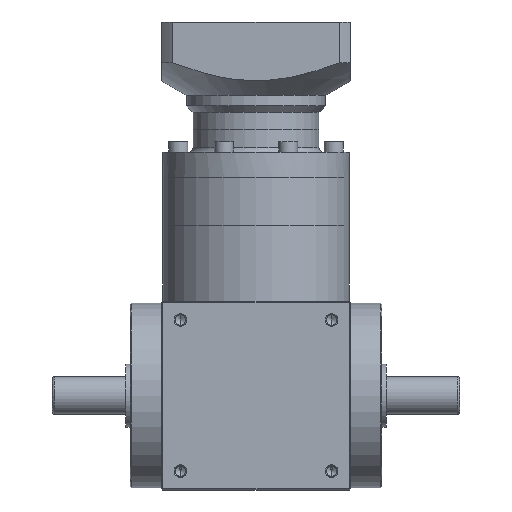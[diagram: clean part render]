
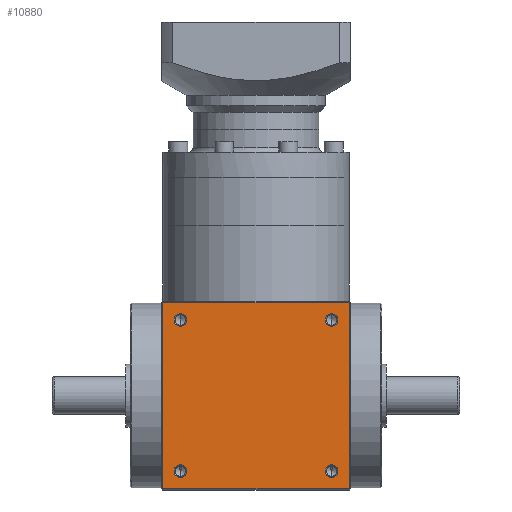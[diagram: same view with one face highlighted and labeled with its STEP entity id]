
A CAD part, front view. The second image highlights one B-rep face of the part: STEP entity #10880.
In plain terms, the highlighted planar face has unit normal (0, -1, 0).
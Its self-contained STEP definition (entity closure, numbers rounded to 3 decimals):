
#320 = VERTEX_POINT ( 'NONE', #10283 ) ;
#443 = ORIENTED_EDGE ( 'NONE', *, *, #26386, .F. ) ;
#527 = CIRCLE ( 'NONE', #22986, 3.025 ) ;
#1310 = VERTEX_POINT ( 'NONE', #34458 ) ;
#1493 = AXIS2_PLACEMENT_3D ( 'NONE', #32170, #6461, #36459 ) ;
#1652 = AXIS2_PLACEMENT_3D ( 'NONE', #54366, #28804, #3116 ) ;
#2283 = DIRECTION ( 'NONE',  ( 1., 0., 0. ) ) ;
#2590 = EDGE_CURVE ( 'NONE', #17199, #4421, #20170, .T. ) ;
#2798 = ORIENTED_EDGE ( 'NONE', *, *, #35758, .F. ) ;
#3100 = DIRECTION ( 'NONE',  ( 0., 1., 0. ) ) ;
#3116 = DIRECTION ( 'NONE',  ( 0., 0., -1. ) ) ;
#3380 = CARTESIAN_POINT ( 'NONE',  ( -36., -45., 81. ) ) ;
#4421 = VERTEX_POINT ( 'NONE', #7647 ) ;
#5042 = EDGE_CURVE ( 'NONE', #1310, #31930, #21303, .T. ) ;
#5587 = ORIENTED_EDGE ( 'NONE', *, *, #10806, .F. ) ;
#6372 = AXIS2_PLACEMENT_3D ( 'NONE', #41893, #16223, #46175 ) ;
#6461 = DIRECTION ( 'NONE',  ( 0., -1., 0. ) ) ;
#6628 = AXIS2_PLACEMENT_3D ( 'NONE', #28789, #3100, #33139 ) ;
#7369 = EDGE_CURVE ( 'NONE', #21403, #47609, #20513, .T. ) ;
#7647 = CARTESIAN_POINT ( 'NONE',  ( -36., -45., 84.025 ) ) ;
#7694 = DIRECTION ( 'NONE',  ( 0., 0., -1. ) ) ;
#7938 = CARTESIAN_POINT ( 'NONE',  ( -36., -45., 5.975 ) ) ;
#7966 = ORIENTED_EDGE ( 'NONE', *, *, #40635, .F. ) ;
#8669 = DIRECTION ( 'NONE',  ( 0., -1., 0. ) ) ;
#10283 = CARTESIAN_POINT ( 'NONE',  ( 36., -45., 77.975 ) ) ;
#10531 = ORIENTED_EDGE ( 'NONE', *, *, #17927, .F. ) ;
#10806 = EDGE_CURVE ( 'NONE', #10970, #21403, #17516, .T. ) ;
#10880 = ADVANCED_FACE ( 'NONE', ( #13508, #46301, #34999, #23553, #12143 ), #15826, .F. ) ;
#10970 = VERTEX_POINT ( 'NONE', #55055 ) ;
#11179 = VERTEX_POINT ( 'NONE', #44085 ) ;
#12143 = FACE_OUTER_BOUND ( 'NONE', #53013, .T. ) ;
#13508 = FACE_BOUND ( 'NONE', #36992, .T. ) ;
#13956 = CIRCLE ( 'NONE', #6372, 3.025 ) ;
#14189 = CIRCLE ( 'NONE', #43662, 3.025 ) ;
#14276 = CARTESIAN_POINT ( 'NONE',  ( 44.5, -45., 0.5 ) ) ;
#14307 = LINE ( 'NONE', #50602, #24354 ) ;
#14315 = EDGE_CURVE ( 'NONE', #45751, #47973, #13956, .T. ) ;
#14517 = CARTESIAN_POINT ( 'NONE',  ( -36., -45., 77.975 ) ) ;
#14675 = ORIENTED_EDGE ( 'NONE', *, *, #32944, .F. ) ;
#15299 = CARTESIAN_POINT ( 'NONE',  ( -44.5, -45., 90. ) ) ;
#15710 = EDGE_CURVE ( 'NONE', #36006, #10970, #21824, .T. ) ;
#15826 = PLANE ( 'NONE',  #6628 ) ;
#16167 = VECTOR ( 'NONE', #28236, 1000. ) ;
#16223 = DIRECTION ( 'NONE',  ( 0., -1., 0. ) ) ;
#16635 = CARTESIAN_POINT ( 'NONE',  ( 36., -45., 81. ) ) ;
#17199 = VERTEX_POINT ( 'NONE', #14517 ) ;
#17278 = DIRECTION ( 'NONE',  ( 0., -1., 0. ) ) ;
#17303 = CARTESIAN_POINT ( 'NONE',  ( 36., -45., 5.975 ) ) ;
#17516 = LINE ( 'NONE', #15299, #16167 ) ;
#17805 = AXIS2_PLACEMENT_3D ( 'NONE', #16635, #46566, #20919 ) ;
#17927 = EDGE_CURVE ( 'NONE', #11179, #320, #55131, .T. ) ;
#19195 = ORIENTED_EDGE ( 'NONE', *, *, #2590, .F. ) ;
#19218 = AXIS2_PLACEMENT_3D ( 'NONE', #3380, #33408, #7694 ) ;
#20170 = CIRCLE ( 'NONE', #19218, 3.025 ) ;
#20178 = CARTESIAN_POINT ( 'NONE',  ( -45., -45., 0.5 ) ) ;
#20513 = LINE ( 'NONE', #32306, #32002 ) ;
#20919 = DIRECTION ( 'NONE',  ( 0., 0., -1. ) ) ;
#21303 = CIRCLE ( 'NONE', #22154, 3.025 ) ;
#21403 = VERTEX_POINT ( 'NONE', #44156 ) ;
#21824 = LINE ( 'NONE', #20178, #54602 ) ;
#22154 = AXIS2_PLACEMENT_3D ( 'NONE', #42953, #17278, #47228 ) ;
#22986 = AXIS2_PLACEMENT_3D ( 'NONE', #51063, #25463, #55340 ) ;
#23026 = CARTESIAN_POINT ( 'NONE',  ( 36., -45., 12.025 ) ) ;
#23553 = FACE_BOUND ( 'NONE', #23724, .T. ) ;
#23724 = EDGE_LOOP ( 'NONE', ( #7966, #36180 ) ) ;
#24354 = VECTOR ( 'NONE', #33662, 1000. ) ;
#25463 = DIRECTION ( 'NONE',  ( 0., -1., 0. ) ) ;
#26386 = EDGE_CURVE ( 'NONE', #47609, #36006, #14307, .T. ) ;
#28236 = DIRECTION ( 'NONE',  ( 0., 0., 1. ) ) ;
#28789 = CARTESIAN_POINT ( 'NONE',  ( -45., -45., 90. ) ) ;
#28804 = DIRECTION ( 'NONE',  ( 0., -1., 0. ) ) ;
#29707 = EDGE_LOOP ( 'NONE', ( #55069, #50146 ) ) ;
#31930 = VERTEX_POINT ( 'NONE', #7938 ) ;
#32002 = VECTOR ( 'NONE', #2283, 1000. ) ;
#32170 = CARTESIAN_POINT ( 'NONE',  ( -36., -45., 81. ) ) ;
#32306 = CARTESIAN_POINT ( 'NONE',  ( -45., -45., 89.5 ) ) ;
#32944 = EDGE_CURVE ( 'NONE', #320, #11179, #527, .T. ) ;
#33139 = DIRECTION ( 'NONE',  ( 0., 0., 1. ) ) ;
#33408 = DIRECTION ( 'NONE',  ( 0., -1., 0. ) ) ;
#33662 = DIRECTION ( 'NONE',  ( 0., 0., -1. ) ) ;
#34385 = CARTESIAN_POINT ( 'NONE',  ( 36., -45., 9. ) ) ;
#34458 = CARTESIAN_POINT ( 'NONE',  ( -36., -45., 12.025 ) ) ;
#34999 = FACE_BOUND ( 'NONE', #29707, .T. ) ;
#35758 = EDGE_CURVE ( 'NONE', #4421, #17199, #52745, .T. ) ;
#36006 = VERTEX_POINT ( 'NONE', #14276 ) ;
#36180 = ORIENTED_EDGE ( 'NONE', *, *, #5042, .F. ) ;
#36459 = DIRECTION ( 'NONE',  ( 0., 0., -1. ) ) ;
#36992 = EDGE_LOOP ( 'NONE', ( #14675, #10531 ) ) ;
#37451 = DIRECTION ( 'NONE',  ( -1., 0., 0. ) ) ;
#38381 = CIRCLE ( 'NONE', #1652, 3.025 ) ;
#38666 = DIRECTION ( 'NONE',  ( 0., 0., -1. ) ) ;
#40635 = EDGE_CURVE ( 'NONE', #31930, #1310, #38381, .T. ) ;
#41179 = EDGE_CURVE ( 'NONE', #47973, #45751, #14189, .T. ) ;
#41893 = CARTESIAN_POINT ( 'NONE',  ( 36., -45., 9. ) ) ;
#42953 = CARTESIAN_POINT ( 'NONE',  ( -36., -45., 9. ) ) ;
#43662 = AXIS2_PLACEMENT_3D ( 'NONE', #34385, #8669, #38666 ) ;
#43978 = ORIENTED_EDGE ( 'NONE', *, *, #7369, .F. ) ;
#44085 = CARTESIAN_POINT ( 'NONE',  ( 36., -45., 84.025 ) ) ;
#44156 = CARTESIAN_POINT ( 'NONE',  ( -44.5, -45., 89.5 ) ) ;
#45751 = VERTEX_POINT ( 'NONE', #17303 ) ;
#46175 = DIRECTION ( 'NONE',  ( 0., 0., -1. ) ) ;
#46301 = FACE_BOUND ( 'NONE', #49141, .T. ) ;
#46566 = DIRECTION ( 'NONE',  ( 0., -1., 0. ) ) ;
#47228 = DIRECTION ( 'NONE',  ( 0., 0., -1. ) ) ;
#47387 = ORIENTED_EDGE ( 'NONE', *, *, #15710, .F. ) ;
#47609 = VERTEX_POINT ( 'NONE', #53746 ) ;
#47973 = VERTEX_POINT ( 'NONE', #23026 ) ;
#49141 = EDGE_LOOP ( 'NONE', ( #19195, #2798 ) ) ;
#50146 = ORIENTED_EDGE ( 'NONE', *, *, #41179, .F. ) ;
#50602 = CARTESIAN_POINT ( 'NONE',  ( 44.5, -45., 90. ) ) ;
#51063 = CARTESIAN_POINT ( 'NONE',  ( 36., -45., 81. ) ) ;
#52745 = CIRCLE ( 'NONE', #1493, 3.025 ) ;
#53013 = EDGE_LOOP ( 'NONE', ( #47387, #443, #43978, #5587 ) ) ;
#53746 = CARTESIAN_POINT ( 'NONE',  ( 44.5, -45., 89.5 ) ) ;
#54366 = CARTESIAN_POINT ( 'NONE',  ( -36., -45., 9. ) ) ;
#54602 = VECTOR ( 'NONE', #37451, 1000. ) ;
#55055 = CARTESIAN_POINT ( 'NONE',  ( -44.5, -45., 0.5 ) ) ;
#55069 = ORIENTED_EDGE ( 'NONE', *, *, #14315, .F. ) ;
#55131 = CIRCLE ( 'NONE', #17805, 3.025 ) ;
#55340 = DIRECTION ( 'NONE',  ( 0., 0., -1. ) ) ;
